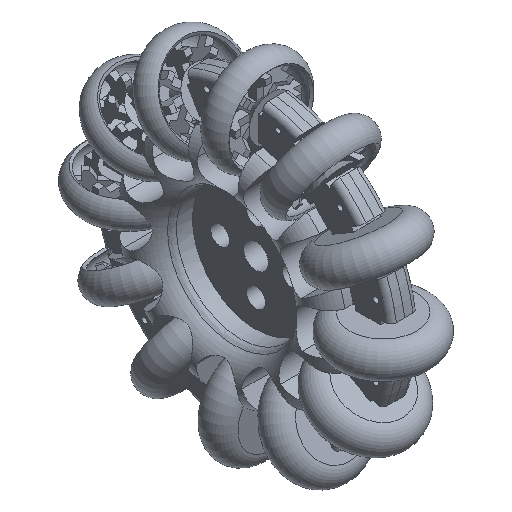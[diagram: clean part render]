
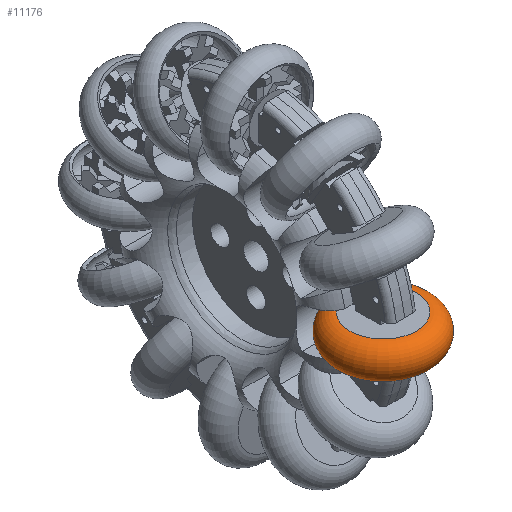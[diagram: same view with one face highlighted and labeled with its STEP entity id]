
A CAD part, isometric view. The second image highlights one B-rep face of the part: STEP entity #11176.
In plain terms, the highlighted toroidal (fillet/blend) face has major radius 6 mm and minor radius 3 mm.
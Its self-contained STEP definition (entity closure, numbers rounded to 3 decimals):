
#178=TOROIDAL_SURFACE('',#11807,6.,3.);
#614=FACE_OUTER_BOUND('',#1181,.T.);
#1181=EDGE_LOOP('',(#7988,#7989,#7990,#7991,#7992));
#4125=CIRCLE('',#11805,7.658);
#4126=CIRCLE('',#11806,7.658);
#4127=CIRCLE('',#11808,6.);
#4128=CIRCLE('',#11809,3.);
#4634=VERTEX_POINT('',#16334);
#4635=VERTEX_POINT('',#16336);
#4636=VERTEX_POINT('',#16340);
#5900=EDGE_CURVE('',#4635,#4634,#4125,.T.);
#5901=EDGE_CURVE('',#4634,#4635,#4126,.T.);
#5902=EDGE_CURVE('',#4636,#4636,#4127,.T.);
#5903=EDGE_CURVE('',#4636,#4635,#4128,.T.);
#7988=ORIENTED_EDGE('',*,*,#5902,.F.);
#7989=ORIENTED_EDGE('',*,*,#5903,.T.);
#7990=ORIENTED_EDGE('',*,*,#5900,.T.);
#7991=ORIENTED_EDGE('',*,*,#5901,.T.);
#7992=ORIENTED_EDGE('',*,*,#5903,.F.);
#11176=ADVANCED_FACE('',(#614),#178,.T.);
#11805=AXIS2_PLACEMENT_3D('',#16337,#13157,#13158);
#11806=AXIS2_PLACEMENT_3D('',#16338,#13159,#13160);
#11807=AXIS2_PLACEMENT_3D('',#16339,#13161,#13162);
#11808=AXIS2_PLACEMENT_3D('',#16341,#13163,#13164);
#11809=AXIS2_PLACEMENT_3D('',#16342,#13165,#13166);
#13157=DIRECTION('center_axis',(0.,0.,-1.));
#13158=DIRECTION('ref_axis',(1.,0.,0.));
#13159=DIRECTION('center_axis',(0.,0.,-1.));
#13160=DIRECTION('ref_axis',(1.,0.,0.));
#13161=DIRECTION('center_axis',(0.,0.,-1.));
#13162=DIRECTION('ref_axis',(-1.,0.,0.));
#13163=DIRECTION('center_axis',(0.,0.,-1.));
#13164=DIRECTION('ref_axis',(1.,0.,0.));
#13165=DIRECTION('center_axis',(0.,-1.,0.));
#13166=DIRECTION('ref_axis',(1.,0.,0.));
#16334=CARTESIAN_POINT('',(0.,-9.658,0.));
#16336=CARTESIAN_POINT('',(7.658,-2.,0.));
#16337=CARTESIAN_POINT('Origin',(0.,-2.,0.));
#16338=CARTESIAN_POINT('Origin',(0.,-2.,0.));
#16339=CARTESIAN_POINT('Origin',(0.,-2.,-2.5));
#16340=CARTESIAN_POINT('',(6.,-2.,-5.5));
#16341=CARTESIAN_POINT('Origin',(0.,-2.,-5.5));
#16342=CARTESIAN_POINT('Origin',(6.,-2.,-2.5));
